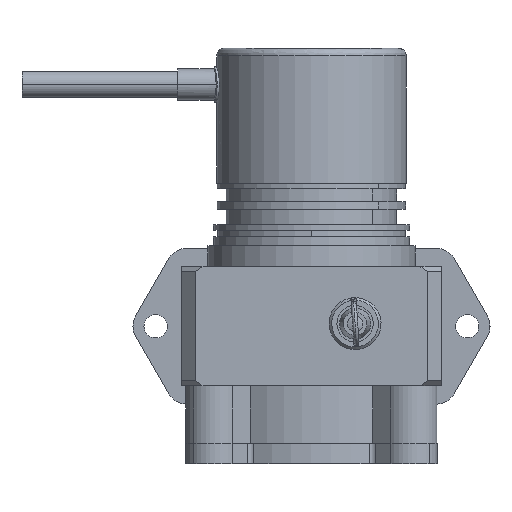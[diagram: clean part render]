
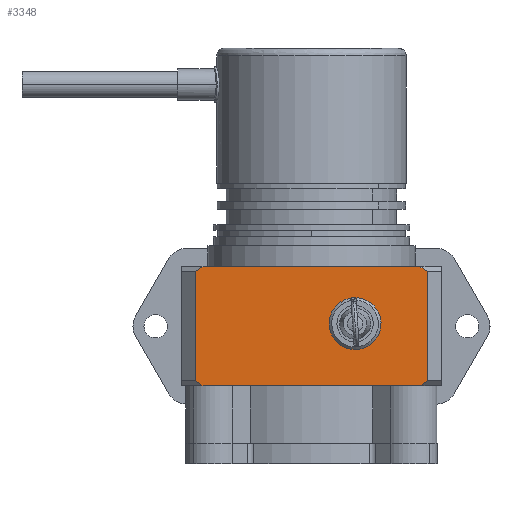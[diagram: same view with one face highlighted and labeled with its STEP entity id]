
A CAD part, front view. The second image highlights one B-rep face of the part: STEP entity #3348.
In plain terms, the highlighted planar face has unit normal (0, -1, 0).
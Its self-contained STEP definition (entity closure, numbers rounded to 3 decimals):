
#12 = VERTEX_POINT ( 'NONE', #4050 ) ;
#134 = EDGE_CURVE ( 'NONE', #12, #135, #4461, .T. ) ;
#135 = VERTEX_POINT ( 'NONE', #4456 ) ;
#182 = EDGE_CURVE ( 'NONE', #552, #265, #4691, .T. ) ;
#209 = VERTEX_POINT ( 'NONE', #4767 ) ;
#232 = EDGE_CURVE ( 'NONE', #233, #234, #4795, .T. ) ;
#233 = VERTEX_POINT ( 'NONE', #4787 ) ;
#234 = VERTEX_POINT ( 'NONE', #4786 ) ;
#262 = VERTEX_POINT ( 'NONE', #4828 ) ;
#264 = EDGE_CURVE ( 'NONE', #265, #262, #4827, .T. ) ;
#265 = VERTEX_POINT ( 'NONE', #4823 ) ;
#552 = VERTEX_POINT ( 'NONE', #5736 ) ;
#554 = EDGE_CURVE ( 'NONE', #234, #209, #5733, .T. ) ;
#3148 = ORIENTED_EDGE ( 'NONE', *, *, #554, .T. ) ;
#3149 = ORIENTED_EDGE ( 'NONE', *, *, #3202, .F. ) ;
#3192 = ORIENTED_EDGE ( 'NONE', *, *, #264, .T. ) ;
#3193 = ORIENTED_EDGE ( 'NONE', *, *, #3194, .T. ) ;
#3194 = EDGE_CURVE ( 'NONE', #262, #3209, #12190, .T. ) ;
#3202 = EDGE_CURVE ( 'NONE', #552, #209, #12405, .T. ) ;
#3203 = ORIENTED_EDGE ( 'NONE', *, *, #182, .T. ) ;
#3209 = VERTEX_POINT ( 'NONE', #12333 ) ;
#3210 = ORIENTED_EDGE ( 'NONE', *, *, #3211, .F. ) ;
#3211 = EDGE_CURVE ( 'NONE', #3212, #3209, #12332, .T. ) ;
#3212 = VERTEX_POINT ( 'NONE', #12328 ) ;
#3213 = ORIENTED_EDGE ( 'NONE', *, *, #3214, .T. ) ;
#3214 = EDGE_CURVE ( 'NONE', #3212, #233, #12327, .T. ) ;
#3348 = ADVANCED_FACE ( 'NONE', ( #12846, #12844 ), #12866, .T. ) ;
#3349 = EDGE_LOOP ( 'NONE', ( #3370, #3368 ) ) ;
#3368 = ORIENTED_EDGE ( 'NONE', *, *, #134, .F. ) ;
#3370 = ORIENTED_EDGE ( 'NONE', *, *, #3371, .F. ) ;
#3371 = EDGE_CURVE ( 'NONE', #135, #12, #12701, .T. ) ;
#3372 = EDGE_LOOP ( 'NONE', ( #3192, #3193, #3210, #3213, #3378, #3148, #3149, #3203 ) ) ;
#3378 = ORIENTED_EDGE ( 'NONE', *, *, #232, .T. ) ;
#4050 = CARTESIAN_POINT ( 'NONE',  ( 8.4, -25., 9.632 ) ) ;
#4456 = CARTESIAN_POINT ( 'NONE',  ( 8.4, -25., 6.368 ) ) ;
#4457 = DIRECTION ( 'NONE',  ( 0., 0., -1. ) ) ;
#4458 = DIRECTION ( 'NONE',  ( 0., -1., 0. ) ) ;
#4459 = CARTESIAN_POINT ( 'NONE',  ( 8.4, -25., 8. ) ) ;
#4460 = AXIS2_PLACEMENT_3D ( 'NONE', #4459, #4458, #4457 ) ;
#4461 = CIRCLE ( 'NONE', #4460, 1.632 ) ;
#4656 = DIRECTION ( 'NONE',  ( -0.816, 0., -0.577 ) ) ;
#4657 = VECTOR ( 'NONE', #4656, 1000. ) ;
#4658 = CARTESIAN_POINT ( 'NONE',  ( -20.886, -25., 19. ) ) ;
#4691 = LINE ( 'NONE', #4658, #4657 ) ;
#4767 = CARTESIAN_POINT ( 'NONE',  ( 20.886, -25., 19. ) ) ;
#4786 = CARTESIAN_POINT ( 'NONE',  ( 22.3, -25., 18. ) ) ;
#4787 = CARTESIAN_POINT ( 'NONE',  ( 22.3, -25., -3. ) ) ;
#4788 = DIRECTION ( 'NONE',  ( 0., 0., 1. ) ) ;
#4789 = VECTOR ( 'NONE', #4788, 1000. ) ;
#4790 = CARTESIAN_POINT ( 'NONE',  ( 22.3, -25., 9.5 ) ) ;
#4795 = LINE ( 'NONE', #4790, #4789 ) ;
#4823 = CARTESIAN_POINT ( 'NONE',  ( -22.3, -25., 18. ) ) ;
#4824 = DIRECTION ( 'NONE',  ( 0., 0., -1. ) ) ;
#4825 = VECTOR ( 'NONE', #4824, 1000. ) ;
#4826 = CARTESIAN_POINT ( 'NONE',  ( -22.3, -25., 9.5 ) ) ;
#4827 = LINE ( 'NONE', #4826, #4825 ) ;
#4828 = CARTESIAN_POINT ( 'NONE',  ( -22.3, -25., -3. ) ) ;
#5730 = DIRECTION ( 'NONE',  ( -0.816, 0., 0.577 ) ) ;
#5731 = VECTOR ( 'NONE', #5730, 1000. ) ;
#5732 = CARTESIAN_POINT ( 'NONE',  ( 22.3, -25., 18. ) ) ;
#5733 = LINE ( 'NONE', #5732, #5731 ) ;
#5736 = CARTESIAN_POINT ( 'NONE',  ( -20.886, -25., 19. ) ) ;
#12080 = DIRECTION ( 'NONE',  ( 0.816, 0., -0.577 ) ) ;
#12188 = VECTOR ( 'NONE', #12080, 1000. ) ;
#12189 = CARTESIAN_POINT ( 'NONE',  ( -32.671, -25., 4.333 ) ) ;
#12190 = LINE ( 'NONE', #12189, #12188 ) ;
#12324 = DIRECTION ( 'NONE',  ( 0.816, 0., 0.577 ) ) ;
#12325 = VECTOR ( 'NONE', #12324, 1000. ) ;
#12326 = CARTESIAN_POINT ( 'NONE',  ( 2.938, -25., -16.691 ) ) ;
#12327 = LINE ( 'NONE', #12326, #12325 ) ;
#12328 = CARTESIAN_POINT ( 'NONE',  ( 20.886, -25., -4. ) ) ;
#12329 = DIRECTION ( 'NONE',  ( -1., 0., 0. ) ) ;
#12330 = VECTOR ( 'NONE', #12329, 1000. ) ;
#12331 = CARTESIAN_POINT ( 'NONE',  ( 22.3, -25., -4. ) ) ;
#12332 = LINE ( 'NONE', #12331, #12330 ) ;
#12333 = CARTESIAN_POINT ( 'NONE',  ( -20.886, -25., -4. ) ) ;
#12402 = DIRECTION ( 'NONE',  ( 1., 0., 0. ) ) ;
#12403 = VECTOR ( 'NONE', #12402, 1000. ) ;
#12404 = CARTESIAN_POINT ( 'NONE',  ( 0., -25., 19. ) ) ;
#12405 = LINE ( 'NONE', #12404, #12403 ) ;
#12697 = DIRECTION ( 'NONE',  ( 0., 0., -1. ) ) ;
#12698 = DIRECTION ( 'NONE',  ( 0., -1., 0. ) ) ;
#12699 = CARTESIAN_POINT ( 'NONE',  ( 8.4, -25., 8. ) ) ;
#12700 = AXIS2_PLACEMENT_3D ( 'NONE', #12699, #12698, #12697 ) ;
#12701 = CIRCLE ( 'NONE', #12700, 1.632 ) ;
#12844 = FACE_OUTER_BOUND ( 'NONE', #3372, .T. ) ;
#12846 = FACE_BOUND ( 'NONE', #3349, .T. ) ;
#12860 = DIRECTION ( 'NONE',  ( 0., 0., -1. ) ) ;
#12861 = DIRECTION ( 'NONE',  ( 0., -1., 0. ) ) ;
#12862 = CARTESIAN_POINT ( 'NONE',  ( -22.3, -25., 19. ) ) ;
#12863 = AXIS2_PLACEMENT_3D ( 'NONE', #12862, #12861, #12860 ) ;
#12866 = PLANE ( 'NONE',  #12863 ) ;
